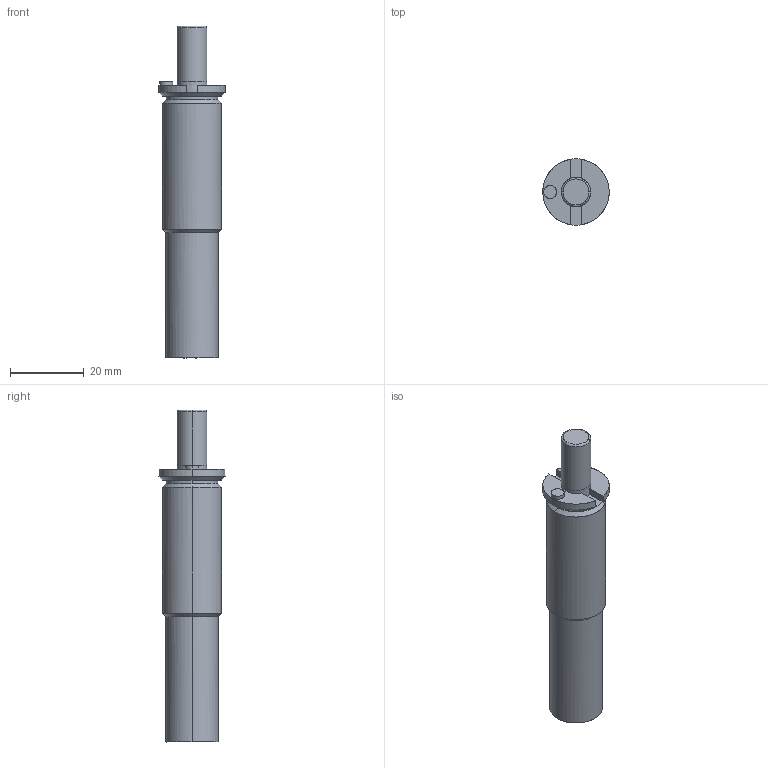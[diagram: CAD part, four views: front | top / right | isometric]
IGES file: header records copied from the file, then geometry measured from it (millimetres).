
Global section: file name: E:\UnigraphicsGraphicData\MISUMI_PRESS-PARTS\IGES\3d_mgsb16-15_04562_r00.igs; native system: NX V5.0; preprocessor: UGS NX IGES V5.0; author: MISUMI; date: 20110105.161434; units: millimetre
Bounding box: 18 x 17.97 x 90 mm (x, y, z)
Surface area: 4500.8 mm2 (no closed solid volume)
Topology: 0 solids, 0 shells, 36 faces, 200 edges, 200 vertices
Faces by surface type: bspline 36
